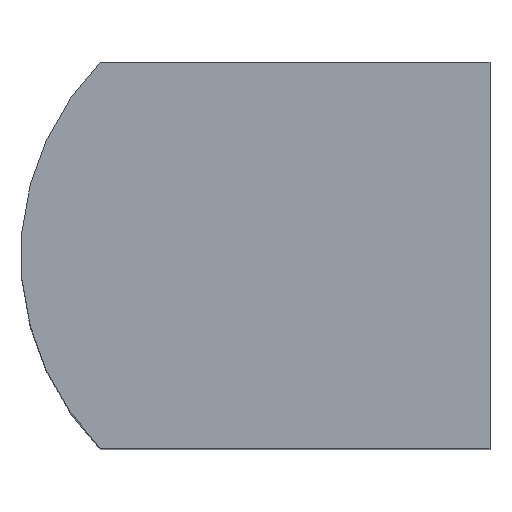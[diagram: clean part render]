
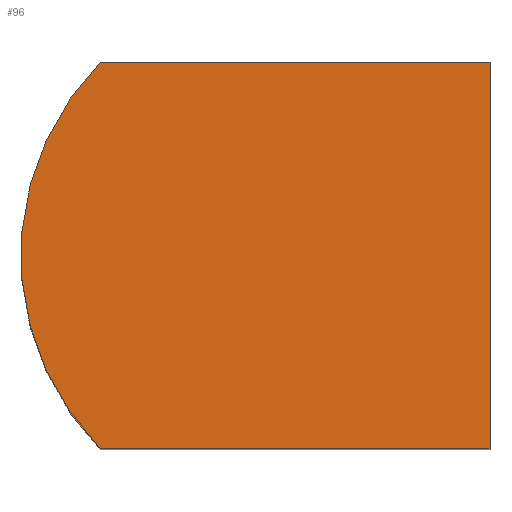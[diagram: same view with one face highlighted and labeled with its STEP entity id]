
A CAD part, top view. The second image highlights one B-rep face of the part: STEP entity #96.
In plain terms, the highlighted planar face has unit normal (0, 0, 1).
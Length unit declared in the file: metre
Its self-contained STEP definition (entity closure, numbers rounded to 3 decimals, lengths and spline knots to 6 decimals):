
#13=LINE('',#156,#23);
#14=LINE('',#158,#24);
#15=LINE('',#160,#25);
#23=VECTOR('',#129,1.);
#24=VECTOR('',#130,1.);
#25=VECTOR('',#131,1.);
#33=ORIENTED_EDGE('',*,*,#57,.T.);
#34=ORIENTED_EDGE('',*,*,#58,.T.);
#35=ORIENTED_EDGE('',*,*,#59,.T.);
#36=ORIENTED_EDGE('',*,*,#60,.T.);
#57=EDGE_CURVE('',#69,#70,#77,.T.);
#58=EDGE_CURVE('',#70,#71,#13,.T.);
#59=EDGE_CURVE('',#71,#72,#14,.T.);
#60=EDGE_CURVE('',#72,#69,#15,.T.);
#69=VERTEX_POINT('',#154);
#70=VERTEX_POINT('',#155);
#71=VERTEX_POINT('',#157);
#72=VERTEX_POINT('',#159);
#77=CIRCLE('',#116,0.001407);
#79=EDGE_LOOP('',(#33,#34,#35,#36));
#85=FACE_BOUND('',#79,.T.);
#91=PLANE('',#115);
#96=ADVANCED_FACE('',(#85),#91,.T.);
#115=AXIS2_PLACEMENT_3D('',#152,#125,#126);
#116=AXIS2_PLACEMENT_3D('',#153,#127,#128);
#125=DIRECTION('',(0.,0.,1.));
#126=DIRECTION('',(-1.,0.,0.));
#127=DIRECTION('',(0.,0.,1.));
#128=DIRECTION('',(0.,1.,0.));
#129=DIRECTION('',(1.,0.,0.));
#130=DIRECTION('',(0.,1.,0.));
#131=DIRECTION('',(-1.,0.,0.));
#152=CARTESIAN_POINT('',(0.267887,0.006636,0.215082));
#153=CARTESIAN_POINT('',(0.267974,0.006636,0.215082));
#154=CARTESIAN_POINT('',(0.266974,0.007626,0.215082));
#155=CARTESIAN_POINT('',(0.266974,0.005646,0.215082));
#156=CARTESIAN_POINT('',(0.266974,0.005646,0.215082));
#157=CARTESIAN_POINT('',(0.268974,0.005646,0.215082));
#158=CARTESIAN_POINT('',(0.268974,0.005646,0.215082));
#159=CARTESIAN_POINT('',(0.268974,0.007626,0.215082));
#160=CARTESIAN_POINT('',(0.268974,0.007626,0.215082));
